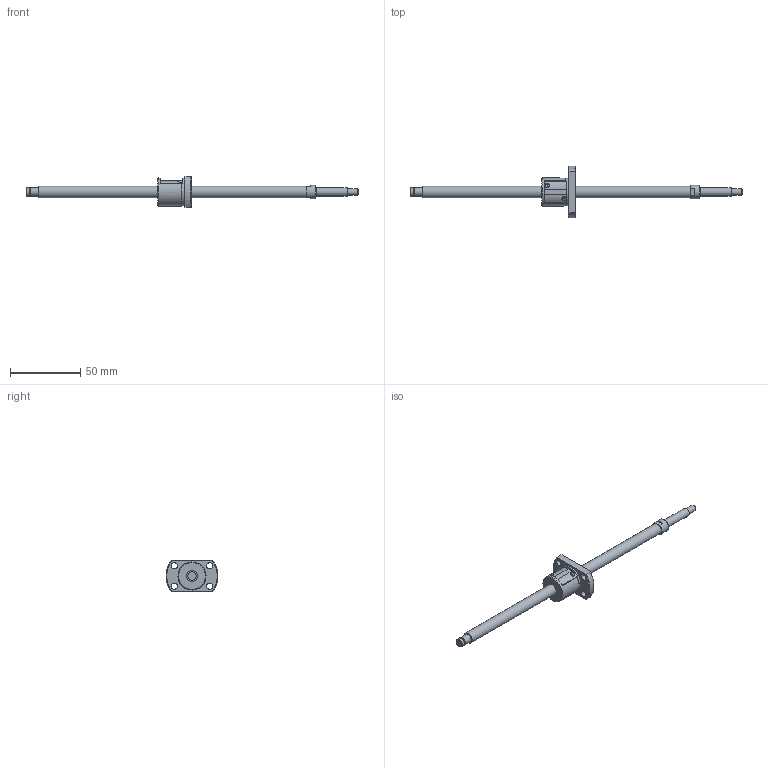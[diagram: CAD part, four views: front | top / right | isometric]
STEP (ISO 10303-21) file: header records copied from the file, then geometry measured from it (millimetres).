
FILE_DESCRIPTION(/* description */ ('STEP AP214'),/* implementation_level */ '2;1');
FILE_NAME(/* name */ 'SRT0802-187R237C7B0X(85Processing)',/* time_stamp */ '2026-08-04T19:57:14+02:00',/* author */ ('License CC BY-ND 4.0'),/* organization */ ('CADENAS'),/* preprocessor_version */ 'ST-DEVELOPER v20',/* originating_system */ 'PARTsolutions',/* authorisation */ ' ');
FILE_SCHEMA (('AUTOMOTIVE_DESIGN {1 0 10303 214 3 1 1}'));
Length unit declared in the file: millimetre
Products named in the file (3): SRT0802-187R237C7B0X(85Processing); SRT0802-187R270BCt7Processing33Shaft; SRT0802Nut
Assembly tree (2 placements, depth 2):
  SRT0802-187R237C7B0X(85Processing)
    SRT0802-187R270BCt7Processing33Shaft
    SRT0802Nut
Bounding box: 237 x 37 x 22 mm (x, y, z)
Volume: 18935.2 mm3; surface area: 9767.9 mm2
Topology: 2 solids, 2 shells, 67 faces, 161 edges, 106 vertices
Faces by surface type: plane 34, cylinder 20, cone 12, torus 1
Full cylindrical faces by diameter (mm): 1 x2, 4.5 x5, 5.7 x1, 6 x3, 8 x2, 9.5 x1, 19.7 x1, 20 x1
Entity records: 1851 total; most frequent: CARTESIAN_POINT 354, DIRECTION 308, ORIENTED_EDGE 246, AXIS2_PLACEMENT_3D 133, EDGE_CURVE 123, EDGE_LOOP 110, FACE_BOUND 110, VERTEX_POINT 93
